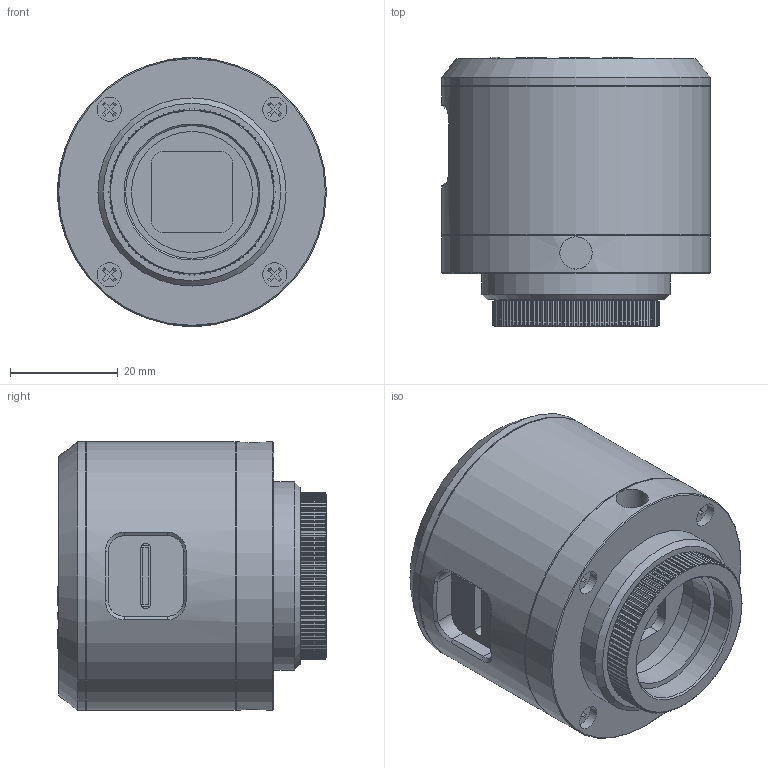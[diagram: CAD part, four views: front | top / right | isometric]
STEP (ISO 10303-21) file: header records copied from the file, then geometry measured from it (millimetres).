
FILE_DESCRIPTION(('STEP AP214'),'1');
FILE_NAME('PT400.stp','2024-12-20T05:15:22',(' '),(' '),'Spatial InterOp 3D',' ',' ');
FILE_SCHEMA(('AUTOMOTIVE_DESIGN { 1 0 10303 214 1 1 1 1 }'));
Length unit declared in the file: metre
Products named in the file (2): PT400; Component1
Assembly tree (1 placements, depth 2):
  PT400
    Component1
Bounding box: 50 x 50.2 x 50 mm (x, y, z)
Volume: 77891.2 mm3; surface area: 15250.9 mm2
Topology: 1 solids, 2 shells, 1586 faces, 4100 edges, 2636 vertices
Faces by surface type: plane 1241, cylinder 238, bspline 44, torus 40, cone 17, sphere 6
Full cylindrical faces by diameter (mm): 3 x1, 3.4 x1, 4.5 x4, 5.2 x1, 5.3 x1, 6 x2, 22.5 x1, 24 x1, 24.7 x3, 30.5 x1, 35 x1, 41 x1, 50 x3
Entity records: 80699 total; most frequent: CARTESIAN_POINT 9077, ORIENTED_EDGE 8086, DIRECTION 7824, STYLED_ITEM 5606, PRESENTATION_STYLE_ASSIGNMENT 5606, COLOUR_RGB 5606, EDGE_CURVE 4043, CURVE_STYLE 4019
